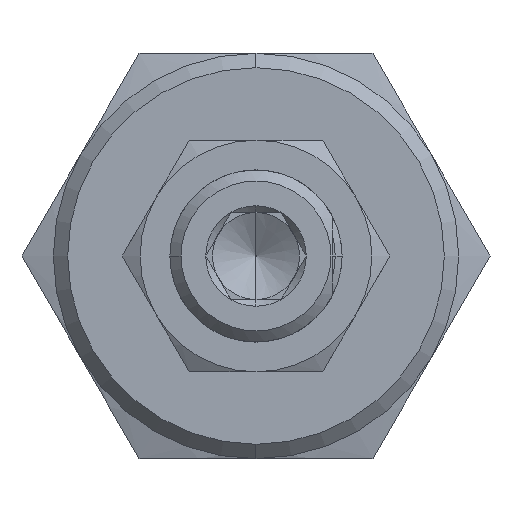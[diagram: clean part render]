
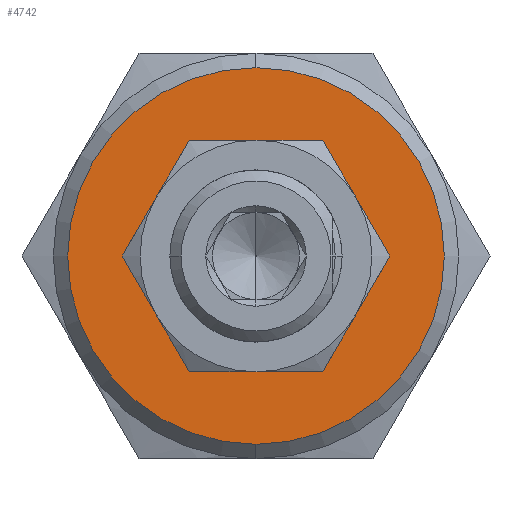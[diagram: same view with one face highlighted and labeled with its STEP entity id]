
A CAD part, left-side view. The second image highlights one B-rep face of the part: STEP entity #4742.
In plain terms, the highlighted planar face has unit normal (-1, 0, 0).
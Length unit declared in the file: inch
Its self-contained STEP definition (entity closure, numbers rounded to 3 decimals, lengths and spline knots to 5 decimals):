
#662=CARTESIAN_POINT('',(-1.673,0.,-0.4065));
#663=VERTEX_POINT('',#662);
#672=CARTESIAN_POINT('',(-1.673,0.,0.4065));
#673=VERTEX_POINT('',#672);
#674=CARTESIAN_POINT('',(-1.673,0.,0.));
#675=DIRECTION('',(1.0,0.0,0.0));
#676=DIRECTION('',(0.0,0.0,-1.0));
#677=AXIS2_PLACEMENT_3D('',#674,#675,#676);
#678=CIRCLE('',#677,0.4065);
#679=EDGE_CURVE('',#663,#673,#678,.T.);
#4671=CARTESIAN_POINT('',(-1.673,0.,-0.20325));
#4672=DIRECTION('',(-1.0,0.0,0.0));
#4673=DIRECTION('',(0.0,-1.0,0.0));
#4674=AXIS2_PLACEMENT_3D('',#4671,#4672,#4673);
#4675=PLANE('',#4674);
#4676=ORIENTED_EDGE('',*,*,#679,.F.);
#4677=CARTESIAN_POINT('',(-1.673,0.,0.));
#4678=DIRECTION('',(1.0,0.0,0.0));
#4679=DIRECTION('',(0.0,0.0,-1.0));
#4680=AXIS2_PLACEMENT_3D('',#4677,#4678,#4679);
#4681=CIRCLE('',#4680,0.4065);
#4682=EDGE_CURVE('',#673,#663,#4681,.T.);
#4683=ORIENTED_EDGE('',*,*,#4682,.F.);
#4684=EDGE_LOOP('',(#4676,#4683));
#4685=FACE_OUTER_BOUND('',#4684,.T.);
#4686=CARTESIAN_POINT('',(-1.673,0.21651,0.125));
#4687=VERTEX_POINT('',#4686);
#4688=CARTESIAN_POINT('',(-1.673,0.,0.25));
#4689=VERTEX_POINT('',#4688);
#4690=CARTESIAN_POINT('',(-1.673,0.,0.));
#4691=DIRECTION('',(1.0,0.0,0.0));
#4692=DIRECTION('',(0.0,0.0,1.0));
#4693=AXIS2_PLACEMENT_3D('',#4690,#4691,#4692);
#4694=CIRCLE('',#4693,0.25);
#4695=EDGE_CURVE('',#4687,#4689,#4694,.T.);
#4696=ORIENTED_EDGE('',*,*,#4695,.T.);
#4697=CARTESIAN_POINT('',(-1.673,-0.21651,0.125));
#4698=VERTEX_POINT('',#4697);
#4699=CARTESIAN_POINT('',(-1.673,0.,0.));
#4700=DIRECTION('',(1.0,0.0,0.0));
#4701=DIRECTION('',(0.0,0.0,1.0));
#4702=AXIS2_PLACEMENT_3D('',#4699,#4700,#4701);
#4703=CIRCLE('',#4702,0.25);
#4704=EDGE_CURVE('',#4689,#4698,#4703,.T.);
#4705=ORIENTED_EDGE('',*,*,#4704,.T.);
#4706=CARTESIAN_POINT('',(-1.673,-0.21651,-0.125));
#4707=VERTEX_POINT('',#4706);
#4708=CARTESIAN_POINT('',(-1.673,0.,0.));
#4709=DIRECTION('',(1.0,0.0,0.0));
#4710=DIRECTION('',(0.0,0.0,1.0));
#4711=AXIS2_PLACEMENT_3D('',#4708,#4709,#4710);
#4712=CIRCLE('',#4711,0.25);
#4713=EDGE_CURVE('',#4698,#4707,#4712,.T.);
#4714=ORIENTED_EDGE('',*,*,#4713,.T.);
#4715=CARTESIAN_POINT('',(-1.673,0.,-0.25));
#4716=VERTEX_POINT('',#4715);
#4717=CARTESIAN_POINT('',(-1.673,0.,0.));
#4718=DIRECTION('',(1.0,0.0,0.0));
#4719=DIRECTION('',(0.0,0.0,1.0));
#4720=AXIS2_PLACEMENT_3D('',#4717,#4718,#4719);
#4721=CIRCLE('',#4720,0.25);
#4722=EDGE_CURVE('',#4707,#4716,#4721,.T.);
#4723=ORIENTED_EDGE('',*,*,#4722,.T.);
#4724=CARTESIAN_POINT('',(-1.673,0.21651,-0.125));
#4725=VERTEX_POINT('',#4724);
#4726=CARTESIAN_POINT('',(-1.673,0.,0.));
#4727=DIRECTION('',(1.0,0.0,0.0));
#4728=DIRECTION('',(0.0,0.0,1.0));
#4729=AXIS2_PLACEMENT_3D('',#4726,#4727,#4728);
#4730=CIRCLE('',#4729,0.25);
#4731=EDGE_CURVE('',#4716,#4725,#4730,.T.);
#4732=ORIENTED_EDGE('',*,*,#4731,.T.);
#4733=CARTESIAN_POINT('',(-1.673,0.,0.));
#4734=DIRECTION('',(1.0,0.0,0.0));
#4735=DIRECTION('',(0.0,0.0,1.0));
#4736=AXIS2_PLACEMENT_3D('',#4733,#4734,#4735);
#4737=CIRCLE('',#4736,0.25);
#4738=EDGE_CURVE('',#4725,#4687,#4737,.T.);
#4739=ORIENTED_EDGE('',*,*,#4738,.T.);
#4740=EDGE_LOOP('',(#4696,#4705,#4714,#4723,#4732,#4739));
#4741=FACE_BOUND('',#4740,.T.);
#4742=ADVANCED_FACE('',(#4685,#4741),#4675,.T.);
